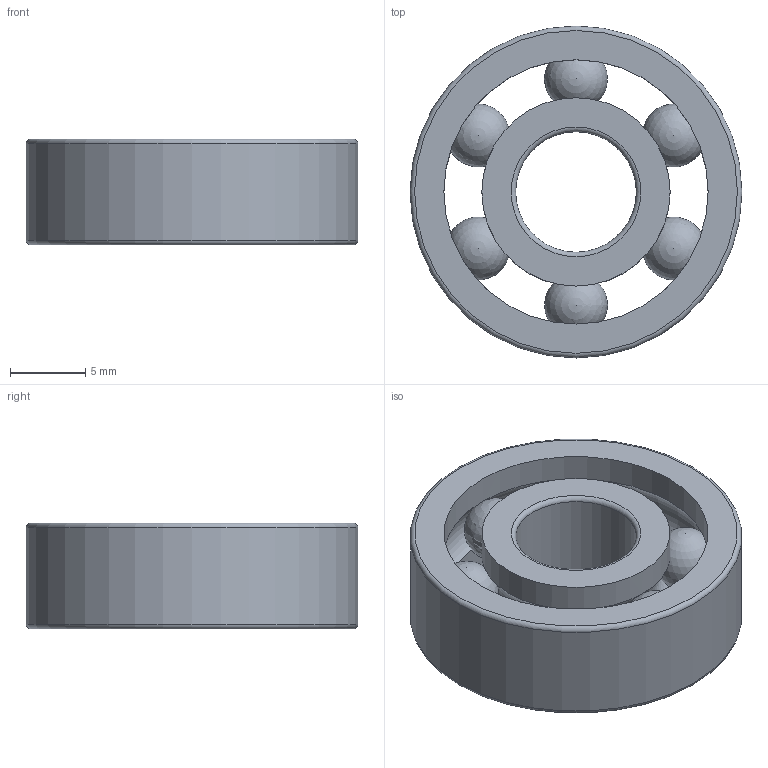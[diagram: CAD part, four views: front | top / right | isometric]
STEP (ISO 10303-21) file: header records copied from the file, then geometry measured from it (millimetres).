
FILE_DESCRIPTION(/* description */ ('Cuscinetti a sfere a fila singola','CAx-IF Rec.Pracs.---Representation and Presentation of Product Manufacturing Information (PMI)---4.0---2014-10-13'),/* implementation_level */ '2;1');
FILE_NAME(/* name */ 'BS 290 SKF - SKF 608.stp',/* time_stamp */ '2026-09-29T06:51:35+02:00',/* author */ ('R5800u'),/* organization */ (''),/* preprocessor_version */ 'ST-DEVELOPER v20',/* originating_system */ 'Autodesk Inventor 2025',/* authorisation */ '');
FILE_SCHEMA (('AP242_MANAGED_MODEL_BASED_3D_ENGINEERING_MIM_LF { 1 0 10303 442 1 1 4 }'));
Length unit declared in the file: millimetre
Products named in the file (1): %3% BS 290 - SKF 608
Bounding box: 22 x 22 x 7 mm (x, y, z)
Volume: 1521.1 mm3; surface area: 2097.7 mm2
Topology: 1 solids, 1 shells, 32 faces, 120 edges, 80 vertices
Faces by surface type: torus 16, cylinder 6, sphere 6, plane 4
Full cylindrical faces by diameter (mm): 8 x1, 12.48 x2, 17.52 x2, 22 x1
Entity records: 1869 total; most frequent: CARTESIAN_POINT 866, ORIENTED_EDGE 216, DIRECTION 180, EDGE_CURVE 108, AXIS2_PLACEMENT_3D 87, VERTEX_POINT 80, B_SPLINE_CURVE_WITH_KNOTS 52, CIRCLE 50
